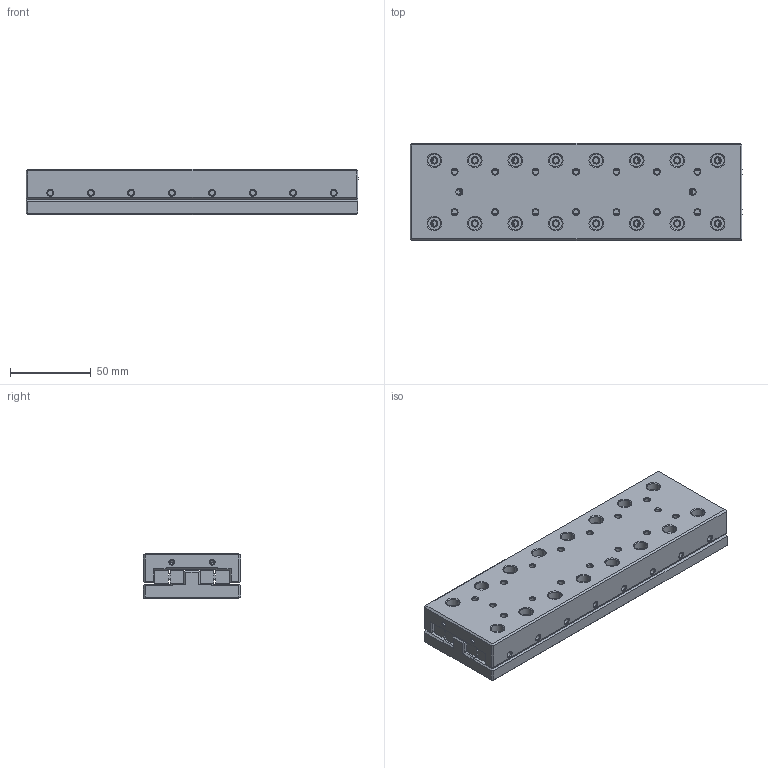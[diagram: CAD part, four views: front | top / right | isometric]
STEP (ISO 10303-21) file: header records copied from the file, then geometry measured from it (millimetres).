
FILE_DESCRIPTION((''),'2;1');
FILE_NAME('CRU3205_ASM','2017-01-24T',('Administrator'),(''),'PRO/ENGINEER BY PARAMETRIC TECHNOLOGY CORPORATION, 2013150','PRO/ENGINEER BY PARAMETRIC TECHNOLOGY CORPORATION, 2013150','');
FILE_SCHEMA(('CONFIG_CONTROL_DESIGN'));
Length unit declared in the file: millimetre
Products named in the file (4): CRU3205-01; CRU3205-GV3200; CRU3205-02; CRU3205_ASM
Assembly tree (4 placements, depth 2):
  CRU3205_ASM
    CRU3205-01
    CRU3205-GV3200  x2
    CRU3205-02
Bounding box: 205 x 60 x 28 mm (x, y, z)
Volume: 304319.1 mm3; surface area: 108036.2 mm2
Topology: 4 solids, 4 shells, 869 faces, 2020 edges, 1227 vertices
Faces by surface type: cylinder 356, cone 314, plane 199
Entity records: 21372 total; most frequent: DIRECTION 3992, CARTESIAN_POINT 3666, ORIENTED_EDGE 3392, EDGE_CURVE 1696, AXIS2_PLACEMENT_3D 1577, VERTEX_POINT 1031, EDGE_LOOP 959, VECTOR 838
